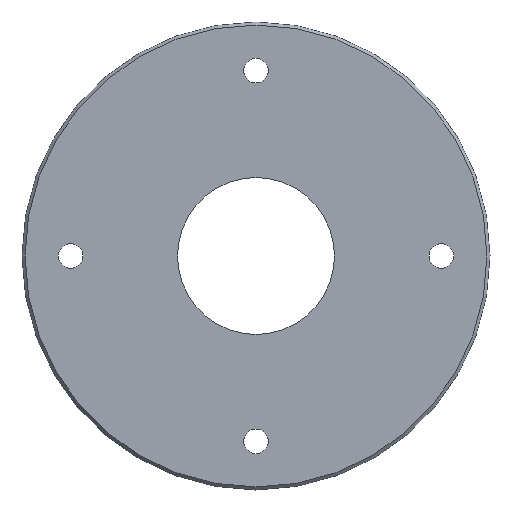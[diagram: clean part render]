
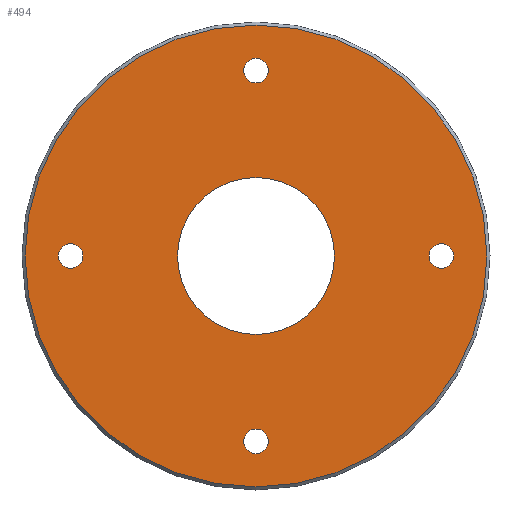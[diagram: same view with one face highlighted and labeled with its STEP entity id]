
A CAD part, left-side view. The second image highlights one B-rep face of the part: STEP entity #494.
In plain terms, the highlighted planar face has unit normal (-1, 0, 0).
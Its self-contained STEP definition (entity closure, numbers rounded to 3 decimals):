
#2 = CARTESIAN_POINT ( 'NONE',  ( 0., 0., 75.2 ) ) ;
#7 = VERTEX_POINT ( 'NONE', #414 ) ;
#8 = CARTESIAN_POINT ( 'NONE',  ( 0., 0., 60.35 ) ) ;
#9 = EDGE_LOOP ( 'NONE', ( #441, #293 ) ) ;
#12 = AXIS2_PLACEMENT_3D ( 'NONE', #186, #511, #228 ) ;
#14 = ORIENTED_EDGE ( 'NONE', *, *, #63, .T. ) ;
#34 = VERTEX_POINT ( 'NONE', #236 ) ;
#37 = DIRECTION ( 'NONE',  ( 0., 0., 1. ) ) ;
#40 = CIRCLE ( 'NONE', #318, 4. ) ;
#42 = ORIENTED_EDGE ( 'NONE', *, *, #385, .F. ) ;
#43 = DIRECTION ( 'NONE',  ( 0., 0., -1. ) ) ;
#45 = VERTEX_POINT ( 'NONE', #193 ) ;
#53 = ORIENTED_EDGE ( 'NONE', *, *, #282, .T. ) ;
#56 = PLANE ( 'NONE',  #171 ) ;
#61 = VERTEX_POINT ( 'NONE', #564 ) ;
#63 = EDGE_CURVE ( 'NONE', #286, #195, #565, .T. ) ;
#67 = EDGE_LOOP ( 'NONE', ( #472, #42 ) ) ;
#68 = CARTESIAN_POINT ( 'NONE',  ( 0., 0., 56.35 ) ) ;
#91 = FACE_BOUND ( 'NONE', #156, .T. ) ;
#102 = DIRECTION ( 'NONE',  ( 1., 0., 0. ) ) ;
#108 = CIRCLE ( 'NONE', #12, 75.2 ) ;
#112 = ORIENTED_EDGE ( 'NONE', *, *, #573, .T. ) ;
#121 = CIRCLE ( 'NONE', #148, 4. ) ;
#125 = DIRECTION ( 'NONE',  ( 1., 0., 0. ) ) ;
#126 = DIRECTION ( 'NONE',  ( 1., 0., 0. ) ) ;
#127 = ORIENTED_EDGE ( 'NONE', *, *, #165, .T. ) ;
#128 = EDGE_LOOP ( 'NONE', ( #135, #555 ) ) ;
#130 = EDGE_CURVE ( 'NONE', #274, #45, #259, .T. ) ;
#135 = ORIENTED_EDGE ( 'NONE', *, *, #484, .T. ) ;
#147 = EDGE_CURVE ( 'NONE', #195, #286, #334, .T. ) ;
#148 = AXIS2_PLACEMENT_3D ( 'NONE', #249, #581, #295 ) ;
#151 = DIRECTION ( 'NONE',  ( 1., 0., 0. ) ) ;
#156 = EDGE_LOOP ( 'NONE', ( #112, #470 ) ) ;
#160 = CARTESIAN_POINT ( 'NONE',  ( 0., -60.35, 0. ) ) ;
#163 = DIRECTION ( 'NONE',  ( 1., 0., 0. ) ) ;
#165 = EDGE_CURVE ( 'NONE', #539, #61, #476, .T. ) ;
#171 = AXIS2_PLACEMENT_3D ( 'NONE', #275, #562, #278 ) ;
#177 = CARTESIAN_POINT ( 'NONE',  ( 0., 0., 60.35 ) ) ;
#183 = VERTEX_POINT ( 'NONE', #68 ) ;
#186 = CARTESIAN_POINT ( 'NONE',  ( 0., 0., 0. ) ) ;
#187 = FACE_BOUND ( 'NONE', #9, .T. ) ;
#193 = CARTESIAN_POINT ( 'NONE',  ( 0., 0., -56.35 ) ) ;
#195 = VERTEX_POINT ( 'NONE', #246 ) ;
#199 = DIRECTION ( 'NONE',  ( 0., 0., 1. ) ) ;
#201 = AXIS2_PLACEMENT_3D ( 'NONE', #422, #151, #477 ) ;
#209 = DIRECTION ( 'NONE',  ( 1., 0., 0. ) ) ;
#218 = EDGE_CURVE ( 'NONE', #34, #417, #121, .T. ) ;
#219 = DIRECTION ( 'NONE',  ( 0., 0., 1. ) ) ;
#228 = DIRECTION ( 'NONE',  ( 0., 0., -1. ) ) ;
#229 = FACE_BOUND ( 'NONE', #128, .T. ) ;
#236 = CARTESIAN_POINT ( 'NONE',  ( 0., 60.35, -4. ) ) ;
#239 = FACE_BOUND ( 'NONE', #608, .T. ) ;
#242 = DIRECTION ( 'NONE',  ( 1., 0., 0. ) ) ;
#246 = CARTESIAN_POINT ( 'NONE',  ( 0., -60.35, 4. ) ) ;
#249 = CARTESIAN_POINT ( 'NONE',  ( 0., 60.35, 0. ) ) ;
#254 = CARTESIAN_POINT ( 'NONE',  ( 0., 0., -64.35 ) ) ;
#259 = CIRCLE ( 'NONE', #443, 4. ) ;
#260 = AXIS2_PLACEMENT_3D ( 'NONE', #603, #126, #546 ) ;
#274 = VERTEX_POINT ( 'NONE', #254 ) ;
#275 = CARTESIAN_POINT ( 'NONE',  ( 0., 75.2, 0. ) ) ;
#278 = DIRECTION ( 'NONE',  ( 0., 0., -1. ) ) ;
#282 = EDGE_CURVE ( 'NONE', #61, #539, #518, .T. ) ;
#286 = VERTEX_POINT ( 'NONE', #396 ) ;
#293 = ORIENTED_EDGE ( 'NONE', *, *, #130, .T. ) ;
#295 = DIRECTION ( 'NONE',  ( 0., 0., 1. ) ) ;
#301 = AXIS2_PLACEMENT_3D ( 'NONE', #177, #506, #219 ) ;
#311 = DIRECTION ( 'NONE',  ( 1., 0., 0. ) ) ;
#318 = AXIS2_PLACEMENT_3D ( 'NONE', #8, #209, #37 ) ;
#320 = CIRCLE ( 'NONE', #405, 4. ) ;
#325 = CARTESIAN_POINT ( 'NONE',  ( 0., 0., 64.35 ) ) ;
#329 = AXIS2_PLACEMENT_3D ( 'NONE', #599, #311, #43 ) ;
#334 = CIRCLE ( 'NONE', #380, 4. ) ;
#336 = CIRCLE ( 'NONE', #260, 4. ) ;
#351 = EDGE_LOOP ( 'NONE', ( #127, #53 ) ) ;
#361 = EDGE_CURVE ( 'NONE', #183, #545, #552, .T. ) ;
#377 = CARTESIAN_POINT ( 'NONE',  ( 0., 60.35, 0. ) ) ;
#380 = AXIS2_PLACEMENT_3D ( 'NONE', #160, #489, #199 ) ;
#385 = EDGE_CURVE ( 'NONE', #510, #7, #459, .T. ) ;
#396 = CARTESIAN_POINT ( 'NONE',  ( 0., -60.35, -4. ) ) ;
#401 = CARTESIAN_POINT ( 'NONE',  ( 0., 0., 0. ) ) ;
#405 = AXIS2_PLACEMENT_3D ( 'NONE', #377, #102, #424 ) ;
#412 = CARTESIAN_POINT ( 'NONE',  ( 0., 60.35, 4. ) ) ;
#414 = CARTESIAN_POINT ( 'NONE',  ( 0., 0., -75.2 ) ) ;
#417 = VERTEX_POINT ( 'NONE', #412 ) ;
#422 = CARTESIAN_POINT ( 'NONE',  ( 0., -60.35, 0. ) ) ;
#424 = DIRECTION ( 'NONE',  ( 0., 0., 1. ) ) ;
#429 = CARTESIAN_POINT ( 'NONE',  ( 0., 0., 25.55 ) ) ;
#430 = AXIS2_PLACEMENT_3D ( 'NONE', #401, #125, #449 ) ;
#431 = FACE_BOUND ( 'NONE', #351, .T. ) ;
#440 = CARTESIAN_POINT ( 'NONE',  ( 0., 0., 0. ) ) ;
#441 = ORIENTED_EDGE ( 'NONE', *, *, #548, .T. ) ;
#443 = AXIS2_PLACEMENT_3D ( 'NONE', #522, #242, #574 ) ;
#449 = DIRECTION ( 'NONE',  ( 0., 0., 1. ) ) ;
#457 = EDGE_CURVE ( 'NONE', #7, #510, #108, .T. ) ;
#459 = CIRCLE ( 'NONE', #329, 75.2 ) ;
#470 = ORIENTED_EDGE ( 'NONE', *, *, #361, .T. ) ;
#472 = ORIENTED_EDGE ( 'NONE', *, *, #457, .F. ) ;
#476 = CIRCLE ( 'NONE', #594, 25.55 ) ;
#477 = DIRECTION ( 'NONE',  ( 0., 0., 1. ) ) ;
#482 = ORIENTED_EDGE ( 'NONE', *, *, #147, .T. ) ;
#484 = EDGE_CURVE ( 'NONE', #417, #34, #320, .T. ) ;
#489 = DIRECTION ( 'NONE',  ( 1., 0., 0. ) ) ;
#490 = DIRECTION ( 'NONE',  ( 0., 0., 1. ) ) ;
#494 = ADVANCED_FACE ( 'NONE', ( #507, #431, #187, #239, #91, #229 ), #56, .F. ) ;
#506 = DIRECTION ( 'NONE',  ( 1., 0., 0. ) ) ;
#507 = FACE_OUTER_BOUND ( 'NONE', #67, .T. ) ;
#510 = VERTEX_POINT ( 'NONE', #2 ) ;
#511 = DIRECTION ( 'NONE',  ( 1., 0., 0. ) ) ;
#518 = CIRCLE ( 'NONE', #430, 25.55 ) ;
#522 = CARTESIAN_POINT ( 'NONE',  ( 0., 0., -60.35 ) ) ;
#539 = VERTEX_POINT ( 'NONE', #429 ) ;
#545 = VERTEX_POINT ( 'NONE', #325 ) ;
#546 = DIRECTION ( 'NONE',  ( 0., 0., 1. ) ) ;
#548 = EDGE_CURVE ( 'NONE', #45, #274, #336, .T. ) ;
#552 = CIRCLE ( 'NONE', #301, 4. ) ;
#555 = ORIENTED_EDGE ( 'NONE', *, *, #218, .T. ) ;
#562 = DIRECTION ( 'NONE',  ( 1., 0., 0. ) ) ;
#564 = CARTESIAN_POINT ( 'NONE',  ( 0., 0., -25.55 ) ) ;
#565 = CIRCLE ( 'NONE', #201, 4. ) ;
#573 = EDGE_CURVE ( 'NONE', #545, #183, #40, .T. ) ;
#574 = DIRECTION ( 'NONE',  ( 0., 0., 1. ) ) ;
#581 = DIRECTION ( 'NONE',  ( 1., 0., 0. ) ) ;
#594 = AXIS2_PLACEMENT_3D ( 'NONE', #440, #163, #490 ) ;
#599 = CARTESIAN_POINT ( 'NONE',  ( 0., 0., 0. ) ) ;
#603 = CARTESIAN_POINT ( 'NONE',  ( 0., 0., -60.35 ) ) ;
#608 = EDGE_LOOP ( 'NONE', ( #482, #14 ) ) ;
